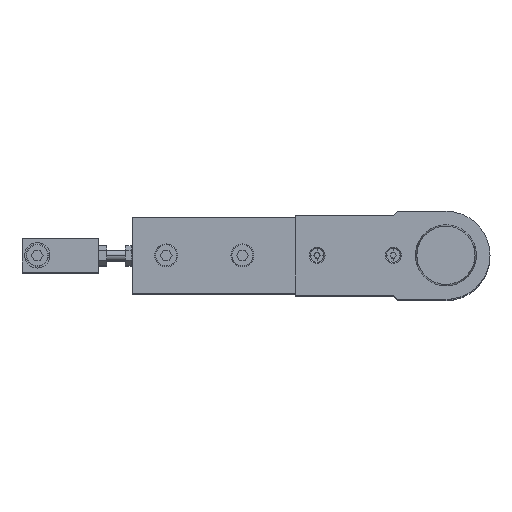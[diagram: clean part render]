
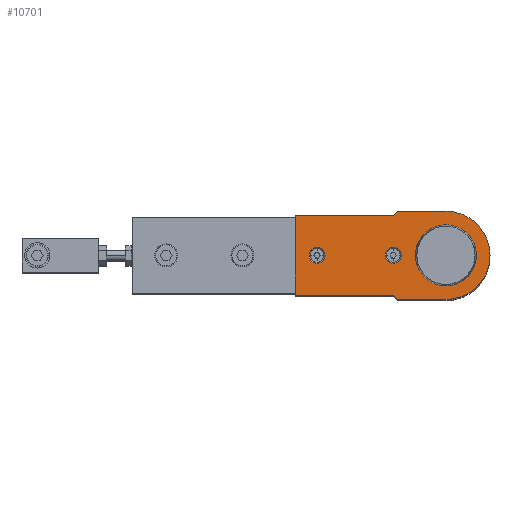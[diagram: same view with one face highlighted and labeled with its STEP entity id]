
A CAD part, top view. The second image highlights one B-rep face of the part: STEP entity #10701.
In plain terms, the highlighted planar face has unit normal (0, 0, 1).
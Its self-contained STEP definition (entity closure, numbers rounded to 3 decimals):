
#3269 = AXIS2_PLACEMENT_3D ( 'NONE', #21431, #21428, #21434 ) ;
#5188 = AXIS2_PLACEMENT_3D ( 'NONE', #9121, #9122, #9123 ) ;
#5190 = AXIS2_PLACEMENT_3D ( 'NONE', #9134, #9135, #9136 ) ;
#5197 = AXIS2_PLACEMENT_3D ( 'NONE', #9170, #9171, #9172 ) ;
#5201 = AXIS2_PLACEMENT_3D ( 'NONE', #9197, #9198, #9199 ) ;
#5221 = AXIS2_PLACEMENT_3D ( 'NONE', #9333, #9334, #9335 ) ;
#5233 = AXIS2_PLACEMENT_3D ( 'NONE', #7632, #7633, #7634 ) ;
#5236 = AXIS2_PLACEMENT_3D ( 'NONE', #7680, #7681, #7682 ) ;
#5267 = AXIS2_PLACEMENT_3D ( 'NONE', #7857, #7858, #7859 ) ;
#6162 = EDGE_CURVE ( 'NONE', #20415, #16405, #10361, .T. ) ;
#6176 = EDGE_CURVE ( 'NONE', #16405, #20174, #10384, .T. ) ;
#6182 = EDGE_CURVE ( 'NONE', #20475, #16358, #10394, .T. ) ;
#6196 = EDGE_CURVE ( 'NONE', #16333, #14005, #10413, .T. ) ;
#6208 = EDGE_CURVE ( 'NONE', #20428, #16207, #10434, .T. ) ;
#6234 = EDGE_CURVE ( 'NONE', #16441, #16498, #10476, .T. ) ;
#6252 = EDGE_CURVE ( 'NONE', #20230, #16402, #10504, .T. ) ;
#6262 = EDGE_CURVE ( 'NONE', #20245, #20415, #8336, .T. ) ;
#6264 = EDGE_CURVE ( 'NONE', #20204, #20245, #8341, .T. ) ;
#6266 = EDGE_CURVE ( 'NONE', #14005, #16333, #8345, .T. ) ;
#6268 = EDGE_CURVE ( 'NONE', #16402, #16441, #8348, .T. ) ;
#6291 = EDGE_CURVE ( 'NONE', #16207, #20428, #8382, .T. ) ;
#6313 = EDGE_CURVE ( 'NONE', #16358, #20475, #8406, .T. ) ;
#6386 = EDGE_CURVE ( 'NONE', #20174, #20230, #8536, .T. ) ;
#6394 = EDGE_CURVE ( 'NONE', #16498, #20204, #8545, .T. ) ;
#7632 = CARTESIAN_POINT ( 'NONE',  ( 154., 0., 228. ) ) ;
#7633 = DIRECTION ( 'NONE',  ( 0., 0., 1. ) ) ;
#7634 = DIRECTION ( 'NONE',  ( -1., 0., 0. ) ) ;
#7680 = CARTESIAN_POINT ( 'NONE',  ( 185., 0., 228. ) ) ;
#7681 = DIRECTION ( 'NONE',  ( 0., 0., 1. ) ) ;
#7682 = DIRECTION ( 'NONE',  ( -1., 0., 0. ) ) ;
#7857 = CARTESIAN_POINT ( 'NONE',  ( 185., 0., 228. ) ) ;
#7858 = DIRECTION ( 'NONE',  ( 0., 0., 1. ) ) ;
#7859 = DIRECTION ( 'NONE',  ( -1., 0., 0. ) ) ;
#7882 = CARTESIAN_POINT ( 'NONE',  ( 96., -23.5, 228. ) ) ;
#7883 = DIRECTION ( 'NONE',  ( 0., -1., 0. ) ) ;
#8046 = EDGE_LOOP ( 'NONE', ( #11231, #11230 ) ) ;
#8053 = EDGE_LOOP ( 'NONE', ( #11233, #11232 ) ) ;
#8054 = EDGE_LOOP ( 'NONE', ( #11229, #11228, #11227, #11226, #11225, #11224, #11223, #11222, #11221 ) ) ;
#8056 = EDGE_LOOP ( 'NONE', ( #11220, #11219 ) ) ;
#8336 = LINE ( 'NONE', #9323, #8340 ) ;
#8340 = VECTOR ( 'NONE', #9324, 1000. ) ;
#8341 = LINE ( 'NONE', #9327, #8344 ) ;
#8344 = VECTOR ( 'NONE', #9328, 1000. ) ;
#8345 = CIRCLE ( 'NONE', #5221, 4.7 ) ;
#8348 = LINE ( 'NONE', #9332, #8351 ) ;
#8351 = VECTOR ( 'NONE', #9331, 1000. ) ;
#8382 = CIRCLE ( 'NONE', #5233, 4.7 ) ;
#8406 = CIRCLE ( 'NONE', #5236, 18. ) ;
#8536 = CIRCLE ( 'NONE', #5267, 26. ) ;
#8544 = VECTOR ( 'NONE', #7883, 1000. ) ;
#8545 = LINE ( 'NONE', #7882, #8544 ) ;
#9085 = CARTESIAN_POINT ( 'NONE',  ( 185., -26., 228. ) ) ;
#9087 = DIRECTION ( 'NONE',  ( 1., 0., 0. ) ) ;
#9121 = CARTESIAN_POINT ( 'NONE',  ( 185., 0., 228. ) ) ;
#9122 = DIRECTION ( 'NONE',  ( 0., 0., 1. ) ) ;
#9123 = DIRECTION ( 'NONE',  ( -1., 0., 0. ) ) ;
#9134 = CARTESIAN_POINT ( 'NONE',  ( 185., 0., 228. ) ) ;
#9135 = DIRECTION ( 'NONE',  ( 0., 0., 1. ) ) ;
#9136 = DIRECTION ( 'NONE',  ( -1., 0., 0. ) ) ;
#9170 = CARTESIAN_POINT ( 'NONE',  ( 109., 0., 228. ) ) ;
#9171 = DIRECTION ( 'NONE',  ( 0., 0., 1. ) ) ;
#9172 = DIRECTION ( 'NONE',  ( -1., 0., 0. ) ) ;
#9197 = CARTESIAN_POINT ( 'NONE',  ( 154., 0., 228. ) ) ;
#9198 = DIRECTION ( 'NONE',  ( 0., 0., 1. ) ) ;
#9199 = DIRECTION ( 'NONE',  ( -1., 0., 0. ) ) ;
#9259 = CARTESIAN_POINT ( 'NONE',  ( 96., 23.5, 228. ) ) ;
#9260 = DIRECTION ( 'NONE',  ( -1., 0., 0. ) ) ;
#9296 = CARTESIAN_POINT ( 'NONE',  ( 185., 26., 228. ) ) ;
#9302 = DIRECTION ( 'NONE',  ( -1., 0., 0. ) ) ;
#9323 = CARTESIAN_POINT ( 'NONE',  ( 156.5, -26., 228. ) ) ;
#9324 = DIRECTION ( 'NONE',  ( 0.707, -0.707, 0. ) ) ;
#9327 = CARTESIAN_POINT ( 'NONE',  ( 154., -23.5, 228. ) ) ;
#9328 = DIRECTION ( 'NONE',  ( 1., 0., 0. ) ) ;
#9331 = DIRECTION ( 'NONE',  ( -0.707, -0.707, 0. ) ) ;
#9332 = CARTESIAN_POINT ( 'NONE',  ( 156.5, 26., 228. ) ) ;
#9333 = CARTESIAN_POINT ( 'NONE',  ( 109., 0., 228. ) ) ;
#9334 = DIRECTION ( 'NONE',  ( 0., 0., 1. ) ) ;
#9335 = DIRECTION ( 'NONE',  ( -1., 0., 0. ) ) ;
#10361 = LINE ( 'NONE', #9085, #10364 ) ;
#10364 = VECTOR ( 'NONE', #9087, 1000. ) ;
#10384 = CIRCLE ( 'NONE', #5188, 26. ) ;
#10394 = CIRCLE ( 'NONE', #5190, 18. ) ;
#10413 = CIRCLE ( 'NONE', #5197, 4.7 ) ;
#10434 = CIRCLE ( 'NONE', #5201, 4.7 ) ;
#10476 = LINE ( 'NONE', #9259, #10479 ) ;
#10479 = VECTOR ( 'NONE', #9260, 1000. ) ;
#10504 = LINE ( 'NONE', #9296, #10508 ) ;
#10508 = VECTOR ( 'NONE', #9302, 1000. ) ;
#10701 = ADVANCED_FACE ( 'NONE', ( #17519, #17529, #17525, #17523 ), #21433, .T. ) ;
#11219 = ORIENTED_EDGE ( 'NONE', *, *, #6182, .F. ) ;
#11220 = ORIENTED_EDGE ( 'NONE', *, *, #6313, .F. ) ;
#11221 = ORIENTED_EDGE ( 'NONE', *, *, #6264, .T. ) ;
#11222 = ORIENTED_EDGE ( 'NONE', *, *, #6394, .T. ) ;
#11223 = ORIENTED_EDGE ( 'NONE', *, *, #6234, .T. ) ;
#11224 = ORIENTED_EDGE ( 'NONE', *, *, #6268, .T. ) ;
#11225 = ORIENTED_EDGE ( 'NONE', *, *, #6252, .T. ) ;
#11226 = ORIENTED_EDGE ( 'NONE', *, *, #6386, .T. ) ;
#11227 = ORIENTED_EDGE ( 'NONE', *, *, #6176, .T. ) ;
#11228 = ORIENTED_EDGE ( 'NONE', *, *, #6162, .T. ) ;
#11229 = ORIENTED_EDGE ( 'NONE', *, *, #6262, .T. ) ;
#11230 = ORIENTED_EDGE ( 'NONE', *, *, #6266, .F. ) ;
#11231 = ORIENTED_EDGE ( 'NONE', *, *, #6196, .F. ) ;
#11232 = ORIENTED_EDGE ( 'NONE', *, *, #6208, .F. ) ;
#11233 = ORIENTED_EDGE ( 'NONE', *, *, #6291, .F. ) ;
#14005 = VERTEX_POINT ( 'NONE', #14808 ) ;
#14808 = CARTESIAN_POINT ( 'NONE',  ( 113.7, 0., 228. ) ) ;
#15324 = CARTESIAN_POINT ( 'NONE',  ( 149.3, 0., 228. ) ) ;
#15506 = CARTESIAN_POINT ( 'NONE',  ( 104.3, 0., 228. ) ) ;
#15531 = CARTESIAN_POINT ( 'NONE',  ( 167., 0., 228. ) ) ;
#15575 = CARTESIAN_POINT ( 'NONE',  ( 156.5, 26., 228. ) ) ;
#15578 = CARTESIAN_POINT ( 'NONE',  ( 185., -26., 228. ) ) ;
#15614 = CARTESIAN_POINT ( 'NONE',  ( 154., 23.5, 228. ) ) ;
#15671 = CARTESIAN_POINT ( 'NONE',  ( 96., 23.5, 228. ) ) ;
#16207 = VERTEX_POINT ( 'NONE', #15324 ) ;
#16333 = VERTEX_POINT ( 'NONE', #15506 ) ;
#16358 = VERTEX_POINT ( 'NONE', #15531 ) ;
#16402 = VERTEX_POINT ( 'NONE', #15575 ) ;
#16405 = VERTEX_POINT ( 'NONE', #15578 ) ;
#16441 = VERTEX_POINT ( 'NONE', #15614 ) ;
#16498 = VERTEX_POINT ( 'NONE', #15671 ) ;
#17519 = FACE_BOUND ( 'NONE', #8053, .T. ) ;
#17523 = FACE_BOUND ( 'NONE', #8056, .T. ) ;
#17525 = FACE_OUTER_BOUND ( 'NONE', #8054, .T. ) ;
#17529 = FACE_BOUND ( 'NONE', #8046, .T. ) ;
#20174 = VERTEX_POINT ( 'NONE', #22921 ) ;
#20204 = VERTEX_POINT ( 'NONE', #22951 ) ;
#20230 = VERTEX_POINT ( 'NONE', #22977 ) ;
#20245 = VERTEX_POINT ( 'NONE', #22992 ) ;
#20415 = VERTEX_POINT ( 'NONE', #23162 ) ;
#20428 = VERTEX_POINT ( 'NONE', #23175 ) ;
#20475 = VERTEX_POINT ( 'NONE', #23222 ) ;
#21428 = DIRECTION ( 'NONE',  ( 0., 0., 1. ) ) ;
#21431 = CARTESIAN_POINT ( 'NONE',  ( 185., 0., 228. ) ) ;
#21433 = PLANE ( 'NONE',  #3269 ) ;
#21434 = DIRECTION ( 'NONE',  ( -1., 0., 0. ) ) ;
#22921 = CARTESIAN_POINT ( 'NONE',  ( 211., 0., 228. ) ) ;
#22951 = CARTESIAN_POINT ( 'NONE',  ( 96., -23.5, 228. ) ) ;
#22977 = CARTESIAN_POINT ( 'NONE',  ( 185., 26., 228. ) ) ;
#22992 = CARTESIAN_POINT ( 'NONE',  ( 154., -23.5, 228. ) ) ;
#23162 = CARTESIAN_POINT ( 'NONE',  ( 156.5, -26., 228. ) ) ;
#23175 = CARTESIAN_POINT ( 'NONE',  ( 158.7, 0., 228. ) ) ;
#23222 = CARTESIAN_POINT ( 'NONE',  ( 203., 0., 228. ) ) ;
